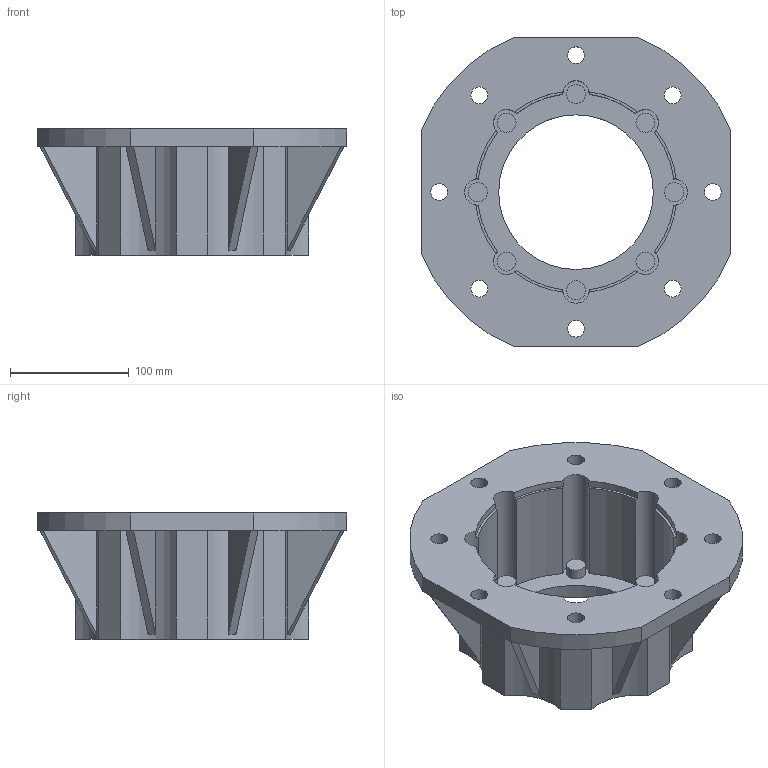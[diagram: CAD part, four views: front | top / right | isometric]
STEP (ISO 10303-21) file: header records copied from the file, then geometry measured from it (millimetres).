
FILE_DESCRIPTION(/* description */ (''),/* implementation_level */ '2;1');
FILE_NAME(/* name */ '2_FLANGIA (CAMPANA) LATERALE FB NMRV-P110',/* time_stamp */ '2025-10-09T15:36:27+02:00',/* author */ (''),/* organization */ (''),/* preprocessor_version */ 'ST-DEVELOPER v19.2',/* originating_system */ 'Rhino 8.23',/* authorisation */ '');
FILE_SCHEMA (('CONFIG_CONTROL_DESIGN'));
Length unit declared in the file: millimetre
Products named in the file (2): Document; FU 110FB-p
Bounding box: 260 x 260 x 106 mm (x, y, z)
Volume: 1175753.2 mm3; surface area: 264259.3 mm2
Topology: 1 solids, 1 shells, 126 faces, 342 edges, 228 vertices
Faces by surface type: cylinder 70, plane 48, bspline 8
Entity records: 5671 total; most frequent: CARTESIAN_POINT 1406, ORIENTED_EDGE 684, DIRECTION 470, EDGE_CURVE 342, AXIS2_PLACEMENT_3D 294, VERTEX_POINT 228, TRIMMED_CURVE 172, CIRCLE 172
